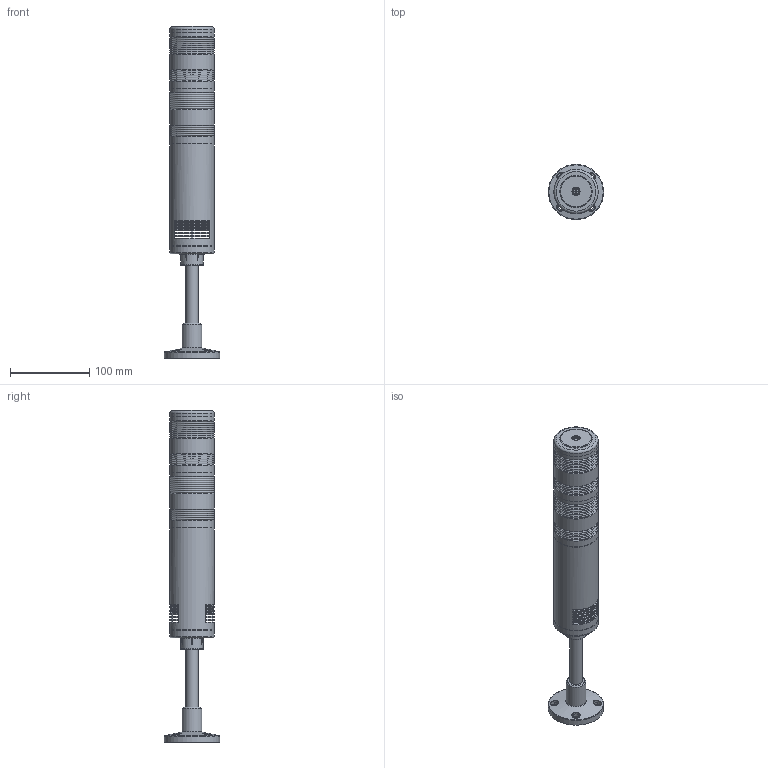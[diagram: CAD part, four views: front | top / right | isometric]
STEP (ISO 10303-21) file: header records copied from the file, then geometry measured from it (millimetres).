
FILE_DESCRIPTION(('STEP AP203'), '1');
FILE_NAME('ñâåòîñèãíàëüíàÿ êîëîííà 2', '', ('UNSPECIFIED'), ('UNSPECIFIED'), 'C3D Converter', 'C3D Toolkit', '');
FILE_SCHEMA(('CONFIG_CONTROL_DESIGN'));
Length unit declared in the file: millimetre
Products named in the file (9): -01
Assembly tree (8 placements, depth 2):
  (unnamed)
    (unnamed)
    (unnamed)
    (unnamed)
    (unnamed)
    -01
    (unnamed)
    (unnamed)
    (unnamed)
Bounding box: 70 x 70 x 419.94 mm (x, y, z)
Volume: 239287.7 mm3; surface area: 136186.2 mm2
Topology: 8 solids, 8 shells, 329 faces, 880 edges, 565 vertices
Faces by surface type: plane 154, cylinder 76, torus 73, cone 21, bspline 4, sphere 1
Full cylindrical faces by diameter (mm): 4.613 x1, 5.5 x4, 8.2 x2, 10 x4, 16 x3, 19 x1, 22.4 x1, 24 x1, 25 x1, 28 x1, 48 x2, 50 x1, 56 x9, 70 x1
Entity records: 14652 total; most frequent: CARTESIAN_POINT 5144, DIRECTION 1650, ORIENTED_EDGE 1586, EDGE_CURVE 793, AXIS2_PLACEMENT_3D 644, VERTEX_POINT 563, EDGE_LOOP 478, LINE 362
